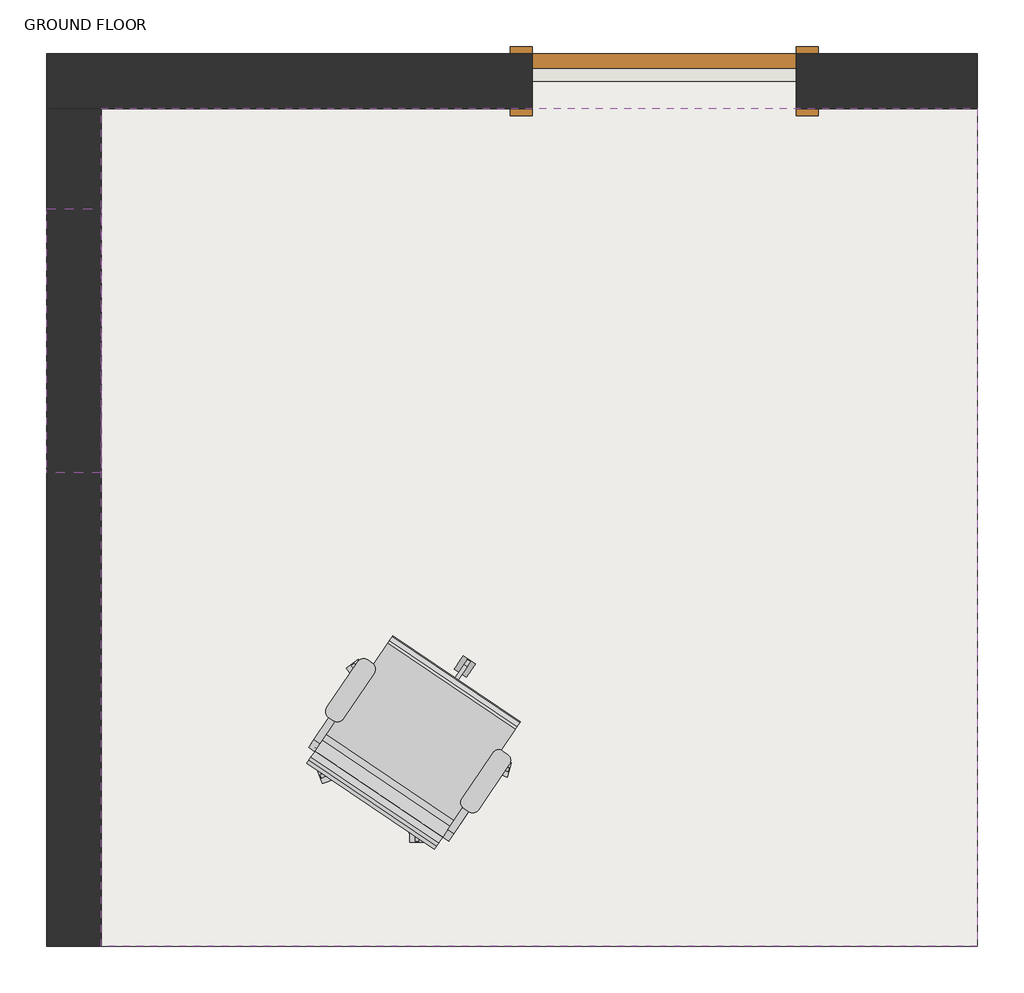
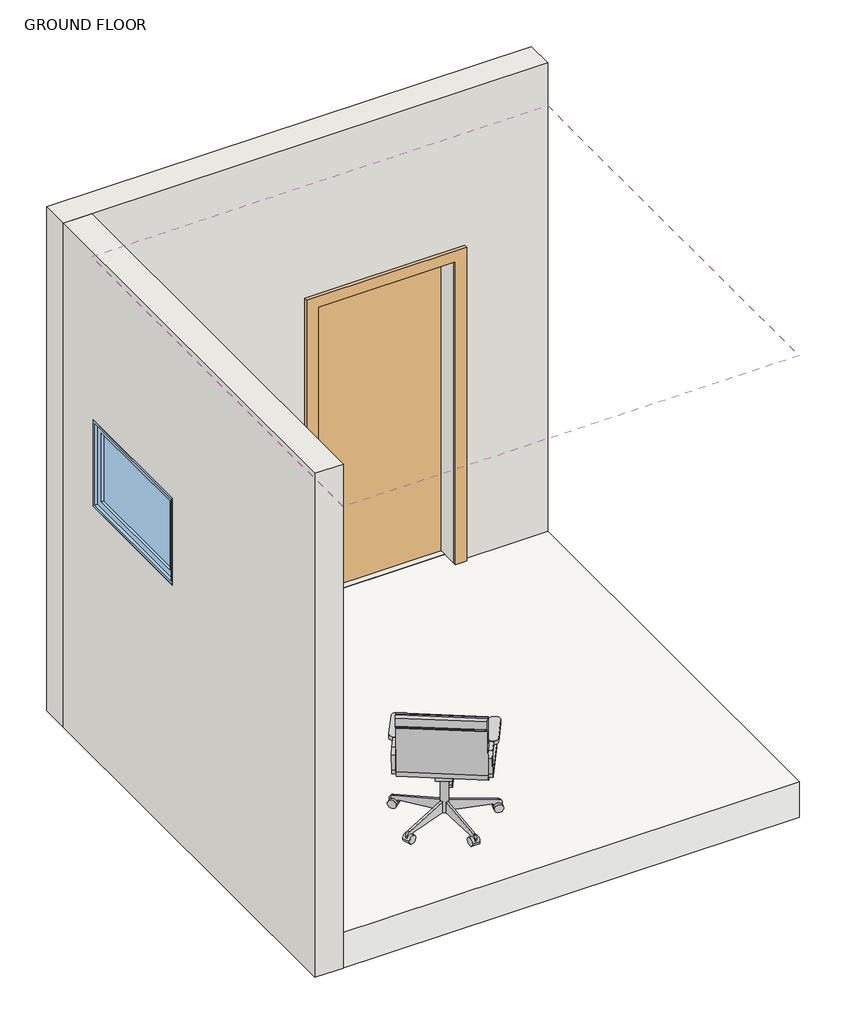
# One storey, incomplete: 2 walls, 1 covering, 1 door, 1 furniture element, 1 slab, 1 window.
"""IFC4 building model written with IfcOpenShell, lengths in millimetres."""

from ifc_helpers import new_model, si_unit, frame, origin, place, context, project, spatial, polyline, outline, extrude, faceted_brep, transform, mapped, element, save
from components import m_single_flush_0915_x_2134mm_f5238887, chair_task_arms_chair_task_arms_8395c10b, m_fixed_0915_x_0610mm_e83bb20a

model = new_model("IFC4")

# Units and contexts
model_context = context("Model", 3, world=origin())
ifc_project = project(units=[si_unit("LENGTHUNIT", "METRE", prefix="MILLI")], contexts=[model_context])

# Site, building, storey
site = spatial("IfcSite", under=ifc_project)
building = spatial("IfcBuilding", under=site)
storey = spatial("IfcBuildingStorey", under=building, Name="GROUND FLOOR", Elevation=0.0)

# Covering
placement = place(None, origin())
element("IfcCovering", 1, ObjectType="_C2.1 - 9mm FLUSHPLASTER CEILING (UNDER CONCRETE SOFFIT)", at=placement, inside=storey, context=model_context, shape_type="SweptSolid", body=[
    extrude(outline(polyline([(-1060.7221628, -38850.6917524), (1977.2778372, -38850.6917524), (1977.2778372, -41755.6917524), (-1060.7221628, -41755.6917524), (-1060.7221628, -38850.6917524)])), frame((0.0, 0.0, 3000.0), z_axis=(0.0, 0.0, 1.0), x_axis=(1.0, 0.0, 0.0)), (0.0, 0.0, 1.0), 9.0),
])

# Door
m_single_flush_0915_x_2134mm_shape = m_single_flush_0915_x_2134mm_f5238887(model_context)
element("IfcDoor", 2, ObjectType="M_Single-Flush : 0915 x 2134mm", at=placement, inside=storey, context=model_context, shape_type="MappedRepresentation", body=[
    mapped(m_single_flush_0915_x_2134mm_shape, transform((891.2778372, -38755.6917524, 0.0), x_axis=(1.0, 0.0, 0.0), y_axis=(0.0, 1.0, 0.0), z_axis=(0.0, 0.0, 1.0))),
])

# Furniture
chair_task_arms_chair_task_arms_shape = chair_task_arms_chair_task_arms_8395c10b(model_context)
element("IfcFurniture", 3, ObjectType="Chair-Task Arms : Chair-Task Arms", at=placement, inside=storey, context=model_context, shape_type="MappedRepresentation", body=[
    mapped(chair_task_arms_chair_task_arms_shape, transform((128.4585015, -41143.2695122, 0.0), x_axis=(-0.8290375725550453, 0.5591929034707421, 0.0), y_axis=(-0.5591929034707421, -0.8290375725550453, 0.0), z_axis=(0.0, 0.0, 1.0))),
])

# Slab
element("IfcSlab", 4, ObjectType="Generic Floor - 250mm", at=placement, inside=storey, context=model_context, shape_type="Brep", body=[
    faceted_brep([(-1136.7221628, -38755.6917524, -250.0), (1977.2778372, -38755.6917524, -250.0), (1977.2778372, -41755.6917524, -250.0), (-1136.7221628, -41755.6917524, -250.0), (-1136.7221628, -38850.6917524, -250.0), (-1136.7221628, -38755.6917524, 0.0), (-1136.7221628, -38850.6917524, 0.0), (-1136.7221628, -41755.6917524, 0.0), (1977.2778372, -41755.6917524, 0.0), (1977.2778372, -38850.6917524, 0.0), (1977.2778372, -38755.6917524, 0.0), (1348.7778372, -38755.6917524, 0.0), (433.7778372, -38755.6917524, 0.0)], [[[0, 1, 2, 3, 4]], [[5, 6, 7, 8, 9, 10, 11, 12]], [[1, 0, 5, 12, 11, 10]], [[2, 1, 10, 9, 8]], [[3, 2, 8, 7]], [[0, 4, 3, 7, 6, 5]]]),
])

# Walls
element("IfcWall", 5, ObjectType="190mm MAXI BLOCK- plastered", at=placement, inside=storey, context=model_context, shape_type="Brep", body=[
    faceted_brep([(1977.2778372, -38850.6917524, 3300.0), (-1060.7221628, -38850.6917524, 3300.0), (-1250.7221628, -38850.6917524, 3300.0), (-1250.7221628, -38850.6917524, -250.0), (-1136.7221628, -38850.6917524, -250.0), (-1136.7221628, -38850.6917524, 0.0), (433.7778372, -38850.6917524, 0.0), (433.7778372, -38850.6917524, 2134.0), (1348.7778372, -38850.6917524, 2134.0), (1348.7778372, -38850.6917524, 0.0), (1977.2778372, -38850.6917524, 0.0), (1977.2778372, -38660.6917524, -250.0), (-1250.7221628, -38660.6917524, -250.0), (-1250.7221628, -38660.6917524, 3300.0), (1977.2778372, -38660.6917524, 3300.0), (433.7778372, -38660.6917524, 0.0), (1348.7778372, -38660.6917524, 0.0), (1348.7778372, -38660.6917524, 2134.0), (433.7778372, -38660.6917524, 2134.0), (1977.2778372, -38755.6917524, -250.0), (-1136.7221628, -38755.6917524, -250.0), (1977.2778372, -38755.6917524, 0.0), (433.7778372, -38755.6917524, 0.0), (1348.7778372, -38755.6917524, 0.0), (-1136.7221628, -38755.6917524, 0.0)], [[[0, 1, 2, 3, 4, 5, 6, 7, 8, 9, 10]], [[11, 12, 13, 14], [15, 16, 17, 18]], [[12, 11, 19, 20, 4, 3]], [[11, 14, 0, 10, 21, 19]], [[2, 1, 0, 14, 13]], [[16, 15, 22, 23]], [[17, 16, 23, 9, 8]], [[18, 17, 8, 7]], [[15, 18, 7, 6, 22]], [[24, 22, 6, 5]], [[23, 21, 10, 9]], [[24, 20, 19, 21, 23, 22]], [[20, 24, 5, 4]], [[3, 2, 13, 12]]]),
])
element("IfcWall", 6, ObjectType="190mm MAXI BLOCK- plastered", at=placement, inside=storey, context=model_context, shape_type="SweptSolid", body=[
    extrude(outline(polyline([(-41755.6917524, -250.0), (-41755.6917524, 3300.0), (-38850.6917524, 3300.0), (-38850.6917524, -250.0), (-41755.6917524, -250.0)]), holes=[polyline([(-40113.1917524, 1518.2533986), (-39198.1917524, 1518.2533986), (-39198.1917524, 2128.2533986), (-40113.1917524, 2128.2533986), (-40113.1917524, 1518.2533986)])]), frame((-1250.7221628, 0.0, 0.0), z_axis=(1.0, 0.0, 0.0), x_axis=(0.0, 1.0, 0.0)), (0.0, 0.0, 1.0), 190.0),
])

# Window
m_fixed_0915_x_0610mm_shape = m_fixed_0915_x_0610mm_e83bb20a(model_context)
element("IfcWindow", 7, ObjectType="M_Fixed : 0915 x 0610mm", at=placement, inside=storey, context=model_context, shape_type="MappedRepresentation", body=[
    mapped(m_fixed_0915_x_0610mm_shape, transform((-1142.7221628, -39655.6917524, 603.2533986), x_axis=(0.0, 1.0, 0.0), y_axis=(-1.0, 0.0, 0.0), z_axis=(0.0, 0.0, 1.0))),
])

save(model, "model.ifc")
